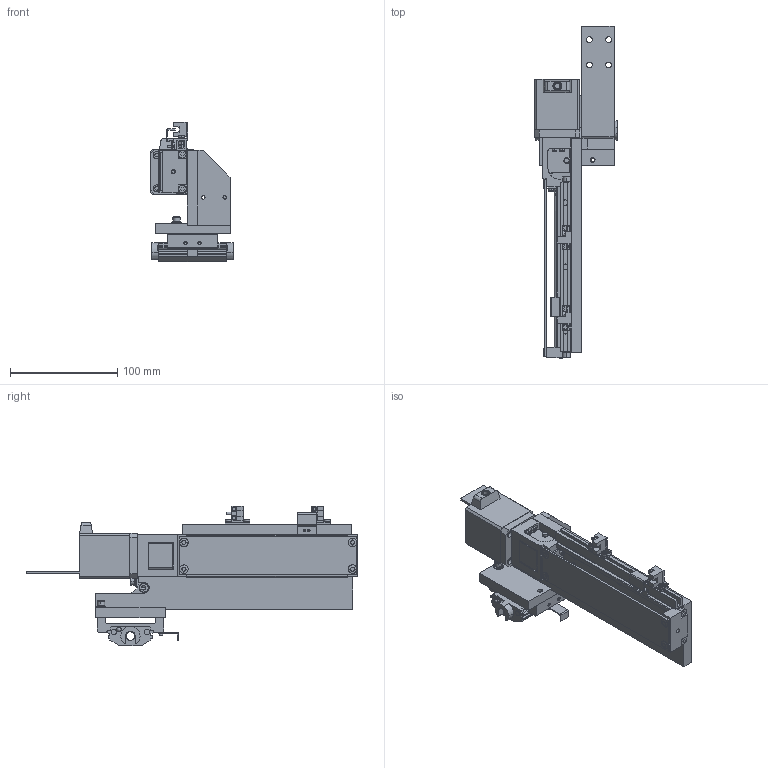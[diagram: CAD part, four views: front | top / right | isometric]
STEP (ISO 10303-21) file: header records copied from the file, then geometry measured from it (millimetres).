
FILE_DESCRIPTION (( 'STEP AP214' ), '1' );
FILE_NAME ('14_X-Y-Z_directions_movable_and_continuity_inspection_mechanism_X.STEP', '2021-02-09T02:13:41', ( '' ), ( '' ), 'SwSTEP 2.0', 'SolidWorks 2017', '' );
FILE_SCHEMA (( 'AUTOMOTIVE_DESIGN' ));
Length unit declared in the file: millimetre
Products named in the file (41): 0405_Z_LXM2001C-T4-D4-3-2-L-150_13; 0405_Z_LXM2001C-T4-D4-3-2-L-150_19; 0405_Z_LXM2001C-T4-D4-3-2-L-150_10; 0405_304_CBM5-10; 0405_208_Bracket; 0405_Z_LXM2001C-T4-D4-3-2-L-150_11; 0405_205_Rib; _0405_Assy; 0405_Z_LXM2001C-T4-D4-3-2-L-150_9; 0405_203_Plate; 0405_Z_LXM2001C-T4-D4-3-2-L-150_6; 0405_Z_LXM2001C-T4-D4-3-2-L-150_3; 0405_Z_LXM2001C-T4-D4-3-2-L-150_18; 0405_Z_LXM2001C-T4-D4-3-2-L-150_2; 14_X-Y-Z_directions_movable_and_continuity_inspection_mechanism_X; 0405_010_MS4-10; 0405_Z_LXM2602C-T4-D4-3-2-L-250_16; 0405_Z_CBST4-10_3; 0405_Z_CBST4-20_1; 0405_Z_LXM2001C-T4-D4-3-2-L-150_4; 0405_Z_CBST4-10_1; 0405_Z_LXM2001C-T4-D4-3-2-L-150_7; 0405_Z_LXM2602C-T4-D4-3-2-L-250_17; 0405_Z_LXM2001C-T4-D4-3-2-L-150_8; _0405_SA02; 0405_002_LXM2602C-T4-D4-3-2-L-250; 0405_Z_LXM2001C-T4-D4-3-2-L-150_14; 0405_012_CBST4-20; 0405_301_CBM3-6; 0405_Z_LXM2001C-T4-D4-3-2-L-150_15; 0405_Z_CBST4-20_3; 0405_Z_CBST4-20_2; 0405_001_LXM2001C-T4-D4-3-2-L-150; 0405_Z_LXM2001C-T4-D4-3-2-L-150_16; 0405_Z_LXM2001C-T4-D4-3-2-L-150_1; 0405_Z_LXM2001C-T4-D4-3-2-L-150_5; _0405_SA01; 0405_011_CBST4-10; 0405_Z_CBST4-10_2; 0405_204_Plate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
Assembly tree (45 placements, depth 5):
  14_X-Y-Z_directions_movable_and_continuity_inspection_mechanism_X
    _0405_Assy
      _0405_SA01
        0405_002_LXM2602C-T4-D4-3-2-L-250
          0405_Z_LXM2602C-T4-D4-3-2-L-250_16
          0405_Z_LXM2602C-T4-D4-3-2-L-250_17
        0405_010_MS4-10  x2
      _0405_SA02
        0405_001_LXM2001C-T4-D4-3-2-L-150
          0405_Z_LXM2001C-T4-D4-3-2-L-150_1
          0405_Z_LXM2001C-T4-D4-3-2-L-150_2
          0405_Z_LXM2001C-T4-D4-3-2-L-150_3
          0405_Z_LXM2001C-T4-D4-3-2-L-150_4
          0405_Z_LXM2001C-T4-D4-3-2-L-150_5
          0405_Z_LXM2001C-T4-D4-3-2-L-150_6
          0405_Z_LXM2001C-T4-D4-3-2-L-150_7
          0405_Z_LXM2001C-T4-D4-3-2-L-150_8
          0405_Z_LXM2001C-T4-D4-3-2-L-150_9
          0405_Z_LXM2001C-T4-D4-3-2-L-150_10
          0405_Z_LXM2001C-T4-D4-3-2-L-150_11
          0405_Z_LXM2001C-T4-D4-3-2-L-150_13
          0405_Z_LXM2001C-T4-D4-3-2-L-150_14
          0405_Z_LXM2001C-T4-D4-3-2-L-150_15
          0405_Z_LXM2001C-T4-D4-3-2-L-150_16
          0405_Z_LXM2001C-T4-D4-3-2-L-150_17
          0405_Z_LXM2001C-T4-D4-3-2-L-150_18
          0405_Z_LXM2001C-T4-D4-3-2-L-150_19
        0405_010_MS4-10  x2
        0405_011_CBST4-10
          0405_Z_CBST4-10_1
          0405_Z_CBST4-10_2
          0405_Z_CBST4-10_3
        0405_012_CBST4-20
          0405_Z_CBST4-20_1
          0405_Z_CBST4-20_2
          0405_Z_CBST4-20_3
        0405_203_Plate
        0405_204_Plate
        0405_205_Rib
        0405_208_Bracket
        0405_301_CBM3-6
        0405_304_CBM5-10  x3
Bounding box: 77 x 310 x 130.1 mm (x, y, z)
Volume: 463668.1 mm3; surface area: 170217.4 mm2
Topology: 38 solids, 38 shells, 1927 faces, 4758 edges, 2982 vertices
Faces by surface type: plane 852, cylinder 618, cone 427, bspline 30
Entity records: 78287 total; most frequent: CARTESIAN_POINT 11355, DIRECTION 9807, ORIENTED_EDGE 9032, EDGE_CURVE 4516, AXIS2_PLACEMENT_3D 3629, VERTEX_POINT 2889, LINE 2549, VECTOR 2549
